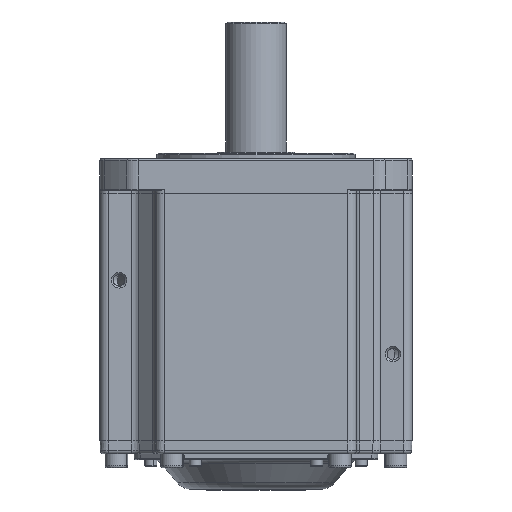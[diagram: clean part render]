
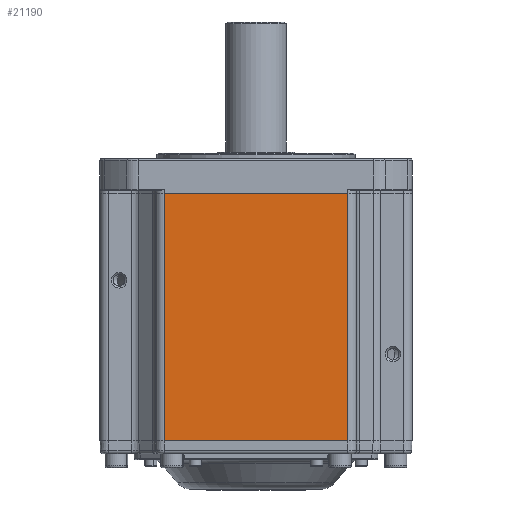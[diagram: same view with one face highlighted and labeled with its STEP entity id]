
A CAD part, front view. The second image highlights one B-rep face of the part: STEP entity #21190.
In plain terms, the highlighted planar face has unit normal (0, -1, 0).
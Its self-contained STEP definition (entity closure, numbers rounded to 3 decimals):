
#451 = CARTESIAN_POINT ( 'NONE',  ( 53.026, -89.007, -896.673 ) ) ;
#1320 = ORIENTED_EDGE ( 'NONE', *, *, #29656, .T. ) ;
#2861 = LINE ( 'NONE', #451, #53075 ) ;
#3416 = ORIENTED_EDGE ( 'NONE', *, *, #34382, .T. ) ;
#4218 = VERTEX_POINT ( 'NONE', #15324 ) ;
#4608 = EDGE_CURVE ( 'NONE', #4218, #56674, #46473, .T. ) ;
#5821 = EDGE_LOOP ( 'NONE', ( #22638, #56830, #1320, #3416 ) ) ;
#7602 = CARTESIAN_POINT ( 'NONE',  ( 53.026, -89.007, 103.327 ) ) ;
#7925 = VERTEX_POINT ( 'NONE', #7602 ) ;
#8068 = CARTESIAN_POINT ( 'NONE',  ( -154.318, -89.007, -39.273 ) ) ;
#14329 = AXIS2_PLACEMENT_3D ( 'NONE', #30773, #16340, #20418 ) ;
#15324 = CARTESIAN_POINT ( 'NONE',  ( -52.974, -89.007, 103.327 ) ) ;
#15598 = CARTESIAN_POINT ( 'NONE',  ( 58.026, -89.007, 103.327 ) ) ;
#16340 = DIRECTION ( 'NONE',  ( 0., 1., 0. ) ) ;
#19778 = CARTESIAN_POINT ( 'NONE',  ( -52.974, -89.007, -896.673 ) ) ;
#20418 = DIRECTION ( 'NONE',  ( 0., 0., -1. ) ) ;
#21190 = ADVANCED_FACE ( 'NONE', ( #37607 ), #45900, .F. ) ;
#22638 = ORIENTED_EDGE ( 'NONE', *, *, #4608, .T. ) ;
#23980 = VECTOR ( 'NONE', #47592, 1000. ) ;
#29656 = EDGE_CURVE ( 'NONE', #45016, #7925, #2861, .T. ) ;
#30185 = VECTOR ( 'NONE', #34881, 1000. ) ;
#30773 = CARTESIAN_POINT ( 'NONE',  ( 58.026, -89.007, -896.673 ) ) ;
#34382 = EDGE_CURVE ( 'NONE', #7925, #4218, #36596, .T. ) ;
#34881 = DIRECTION ( 'NONE',  ( 0., 0., -1. ) ) ;
#34999 = DIRECTION ( 'NONE',  ( 0., 0., 1. ) ) ;
#36596 = LINE ( 'NONE', #15598, #44333 ) ;
#37526 = EDGE_CURVE ( 'NONE', #56674, #45016, #54919, .T. ) ;
#37607 = FACE_OUTER_BOUND ( 'NONE', #5821, .T. ) ;
#44333 = VECTOR ( 'NONE', #59446, 1000. ) ;
#45016 = VERTEX_POINT ( 'NONE', #56653 ) ;
#45900 = PLANE ( 'NONE',  #14329 ) ;
#46473 = LINE ( 'NONE', #19778, #30185 ) ;
#47592 = DIRECTION ( 'NONE',  ( 1., 0., 0. ) ) ;
#53075 = VECTOR ( 'NONE', #34999, 1000. ) ;
#53934 = CARTESIAN_POINT ( 'NONE',  ( -52.974, -89.007, -39.273 ) ) ;
#54919 = LINE ( 'NONE', #8068, #23980 ) ;
#56653 = CARTESIAN_POINT ( 'NONE',  ( 53.026, -89.007, -39.273 ) ) ;
#56674 = VERTEX_POINT ( 'NONE', #53934 ) ;
#56830 = ORIENTED_EDGE ( 'NONE', *, *, #37526, .T. ) ;
#59446 = DIRECTION ( 'NONE',  ( -1., 0., 0. ) ) ;
